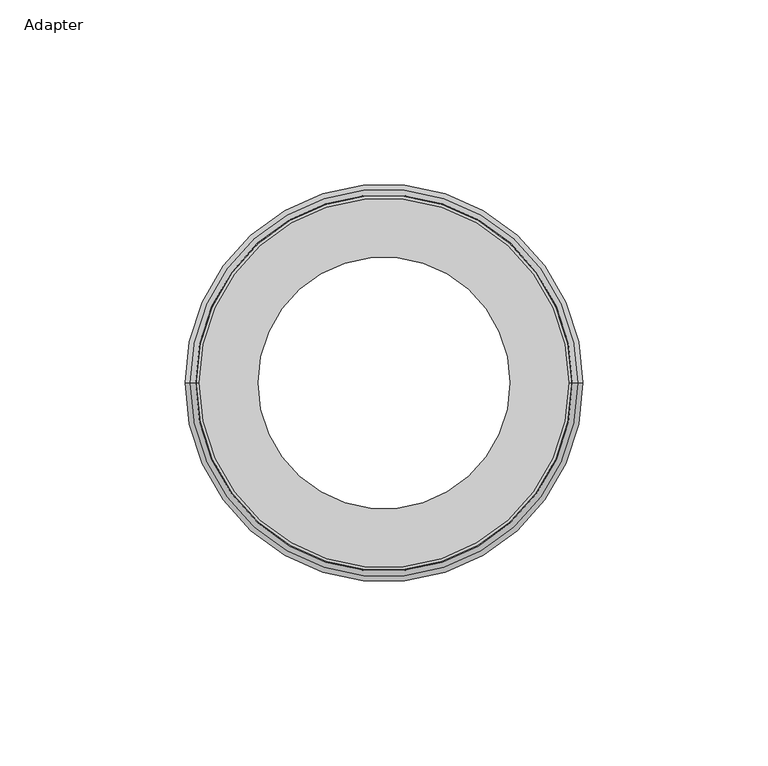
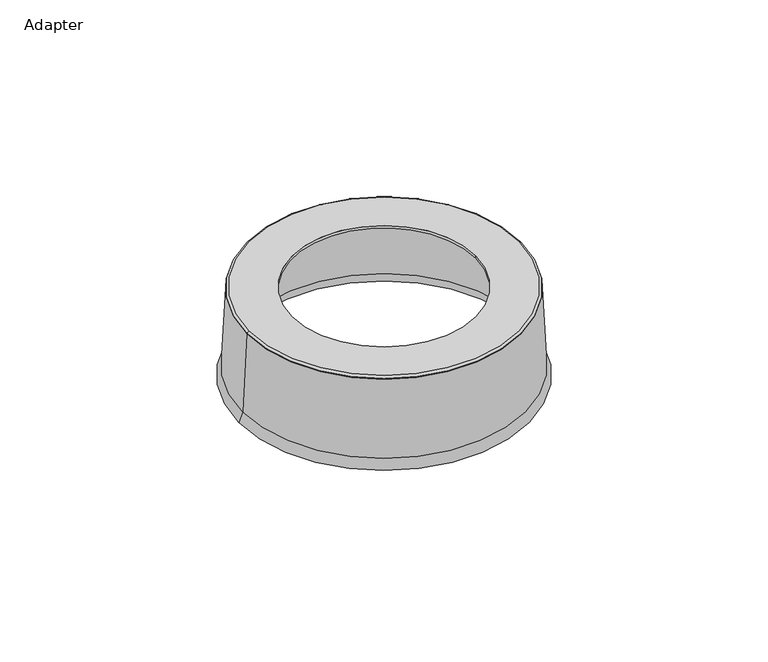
"""IFC4 building model written with IfcOpenShell, lengths in millimetres: proxy geometry, GROVIK_Special_Adapter : Adapter."""

from ifc_helpers import new_model, si_unit, point, frame, origin, origin_with_axes, place, context, project, spatial, polyline, circle_curve, ellipse_curve, trimmed, source, transform, mapped, element, save
from ifc_brep_helpers import plane_surface, revolved_surface, advanced_brep


def adapter_0ab8e2fc(model_context):
    return source(origin(), model_context, "Body", "AdvancedBrep", [
        advanced_brep(
        [(-50.9009919, 0.0, 0.0), (50.9009919, 0.0, 0.0), (52.3952891, 0.0, -29.9705364), (-52.3952891, 0.0, -29.9705364), (-50.0009919, 0.0, 0.0), (50.0009919, 0.0, 0.0), (-51.5044574, 0.0, -30.1544202), (51.5044574, 0.0, -30.1544202), (-52.9176463, 0.0, -34.037125), (52.9176463, 0.0, -34.037125), (-53.7633697, 0.0, -33.7293068), (53.7633697, 0.0, -33.7293068)],
        [
            (0, 1, circle_curve(frame((0.0, 0.0, 0.0), z_axis=(0.0, 0.0, -1.0), x_axis=(1.0, 0.0, 0.0)), 50.9009919)),
            (1, 2),
            (2, 3, circle_curve(frame((0.0, 0.0, -29.9705364), z_axis=(0.0, 0.0, 1.0), x_axis=(1.0, 0.0, 0.0)), 52.3952891)),
            (3, 0),
            (1, 0, circle_curve(frame((0.0, 0.0, 0.0), z_axis=(0.0, 0.0, -1.0), x_axis=(1.0, 0.0, 0.0)), 50.9009919)),
            (3, 2, circle_curve(frame((0.0, 0.0, -29.9705364), z_axis=(0.0, 0.0, 1.0), x_axis=(1.0, 0.0, 0.0)), 52.3952891)),
            (4, 5, circle_curve(frame((0.0, 0.0, 0.0), z_axis=(0.0, 0.0, -1.0), x_axis=(1.0, 0.0, 0.0)), 50.0009919)),
            (5, 1),
            (0, 4),
            (5, 4, circle_curve(frame((0.0, 0.0, 0.0), z_axis=(0.0, 0.0, -1.0), x_axis=(1.0, 0.0, 0.0)), 50.0009919)),
            (6, 7, circle_curve(frame((0.0, 0.0, -30.1544202), z_axis=(0.0, 0.0, -1.0), x_axis=(1.0, 0.0, 0.0)), 51.5044574)),
            (7, 5),
            (4, 6),
            (7, 6, circle_curve(frame((0.0, 0.0, -30.1544202), z_axis=(0.0, 0.0, -1.0), x_axis=(1.0, 0.0, 0.0)), 51.5044574)),
            (8, 9, circle_curve(frame((0.0, 0.0, -34.037125), z_axis=(0.0, 0.0, -1.0), x_axis=(1.0, 0.0, 0.0)), 52.9176463)),
            (9, 7),
            (6, 8),
            (9, 8, circle_curve(frame((0.0, 0.0, -34.037125), z_axis=(0.0, 0.0, -1.0), x_axis=(1.0, 0.0, 0.0)), 52.9176463)),
            (10, 11, circle_curve(frame((0.0, 0.0, -33.7293068), z_axis=(0.0, 0.0, -1.0), x_axis=(1.0, 0.0, 0.0)), 53.7633697)),
            (11, 9),
            (8, 10),
            (11, 10, circle_curve(frame((0.0, 0.0, -33.7293068), z_axis=(0.0, 0.0, -1.0), x_axis=(1.0, 0.0, 0.0)), 53.7633697)),
            (2, 11),
            (10, 3),
        ],
        [
            revolved_surface(polyline([(52.3952891, 0.0, -29.9705364), (50.9009919, 0.0, 0.0)]), (0.0, 0.0, 2214.3150031), (0.0, 0.0, 1.0)),
            plane_surface(origin_with_axes()),
            revolved_surface(polyline([(50.0009919, 0.0, 0.0), (51.5044574, 0.0, -30.1544202)]), (0.0, 0.0, 2214.3150031), (0.0, 0.0, 1.0)),
            revolved_surface(polyline([(51.5044574, 0.0, -30.1544202), (52.9176463, 0.0, -34.037125)]), (0.0, 0.0, 2214.3150031), (0.0, 0.0, 1.0)),
            revolved_surface(polyline([(52.9176463, 0.0, -34.037125), (53.7633697, 0.0, -33.7293068)]), (0.0, 0.0, 2214.3150031), (0.0, 0.0, 1.0)),
            revolved_surface(polyline([(53.7633697, 0.0, -33.7293068), (52.3952891, 0.0, -29.9705364)]), (0.0, 0.0, 2214.3150031), (0.0, 0.0, 1.0)),
        ],
        [
            (0, [[1, 2, 3, 4]]),
            (0, [[5, -4, 6, -2]]),
            (1, [[7, 8, -1, 9]]),
            (1, [[10, -9, -5, -8]]),
            (2, [[11, 12, -7, 13]]),
            (2, [[14, -13, -10, -12]]),
            (3, [[15, 16, -11, 17]]),
            (3, [[18, -17, -14, -16]]),
            (4, [[19, 20, -15, 21]]),
            (4, [[22, -21, -18, -20]]),
            (5, [[-3, 23, -19, 24]]),
            (5, [[-6, -24, -22, -23]]),
        ],
    ),
        advanced_brep(
        [(49.9260695, 0.0, 0.9), (-49.9260695, 0.0, 0.9), (-34.0, 0.0, 0.9), (34.0, 0.0, 0.9), (-50.9009919, 0.0, 0.0), (50.9009919, 0.0, 0.0), (-34.0, 0.0, 0.0), (34.0, 0.0, 0.0)],
        [
            (0, 1, circle_curve(frame((0.0, 0.0, 0.9), z_axis=(0.0, 0.0, 1.0), x_axis=(1.0, 0.0, 0.0)), 49.9260695)),
            (1, 0, circle_curve(frame((0.0, 0.0, 0.9), z_axis=(0.0, 0.0, 1.0), x_axis=(1.0, 0.0, 0.0)), 49.9260695)),
            (2, 3, circle_curve(frame((0.0, 0.0, 0.9), z_axis=(0.0, 0.0, -1.0), x_axis=(1.0, 0.0, 0.0)), 34.0)),
            (3, 2, circle_curve(frame((0.0, 0.0, 0.9), z_axis=(0.0, 0.0, -1.0), x_axis=(1.0, 0.0, 0.0)), 34.0)),
            (4, 5, circle_curve(frame((0.0, 0.0, 0.0), z_axis=(0.0, 0.0, -1.0), x_axis=(1.0, 0.0, 0.0)), 50.9009919)),
            (5, 4, circle_curve(frame((0.0, 0.0, 0.0), z_axis=(0.0, 0.0, -1.0), x_axis=(1.0, 0.0, 0.0)), 50.9009919)),
            (6, 7, circle_curve(origin_with_axes(), 34.0)),
            (7, 6, circle_curve(origin_with_axes(), 34.0)),
            (3, 7),
            (6, 2),
            (4, 1, circle_curve(frame((-49.909864, 0.0, -0.0955955), z_axis=(0.0, 1.0, 0.0), x_axis=(-1.0, 0.0, 0.0)), 0.9957273)),
            (0, 5, circle_curve(frame((49.909864, 0.0, -0.0955955), z_axis=(0.0, 1.0, 0.0), x_axis=(1.0, 0.0, 0.0)), 0.9957273)),
        ],
        [
            plane_surface(frame((34.0, 0.0, 0.9), z_axis=(0.0, 0.0, 1.0), x_axis=(0.0, -1.0, 0.0))),
            plane_surface(frame((34.0, 0.0, 0.0), z_axis=(0.0, 0.0, -1.0), x_axis=(0.0, 1.0, 0.0))),
            revolved_surface(polyline([(34.0, 0.0, 0.0), (34.0, 0.0, 0.9)]), (0.0, 0.0, 0.0), (0.0, 0.0, -1.0)),
            revolved_surface(trimmed(ellipse_curve(frame((49.909864, 0.0, -0.0955955), z_axis=(0.0, -1.0, 0.0), x_axis=(1.0, 0.0, 0.0)), 0.9957273, 0.9957273), [point((50.9009919, 0.0, 0.0))], [point((49.9260695, 0.0, 0.9))], True, "CARTESIAN"), (0.0, 0.0, 2214.3150031), (0.0, 0.0, 1.0)),
        ],
        [
            (0, [[1, 2], [3, 4]]),
            (1, [[5, 6], [7, 8]]),
            (2, [[-4, 9, -7, 10]]),
            (2, [[-3, -10, -8, -9]]),
            (3, [[11, -1, 12, -5]]),
            (3, [[-11, -6, -12, -2]]),
        ],
    ),
    ])


if __name__ == "__main__":
    model = new_model("IFC4")
    model_context = context("Model", 3, world=origin())
    ifc_project = project(units=[si_unit("LENGTHUNIT", "METRE", prefix="MILLI")], contexts=[model_context])
    site = spatial("IfcSite", under=ifc_project)
    building = spatial("IfcBuilding", under=site)
    placement = place(None, origin())
    adapter_shape = adapter_0ab8e2fc(model_context)
    element("IfcBuildingElementProxy", 1, Name="GROVIK_Special_Adapter : Adapter", ObjectType="GROVIK_Special_Adapter : Adapter", at=placement, inside=building, context=model_context, shape_type="MappedRepresentation", body=[
        mapped(adapter_shape, transform((0.0, 0.0, 0.0), x_axis=(1.0, 0.0, 0.0), y_axis=(0.0, 1.0, 0.0), z_axis=(0.0, 0.0, 1.0))),
    ])
    save(model, "model.ifc")
